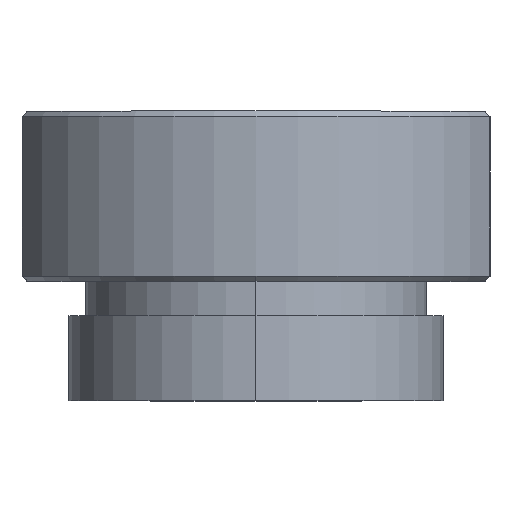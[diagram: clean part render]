
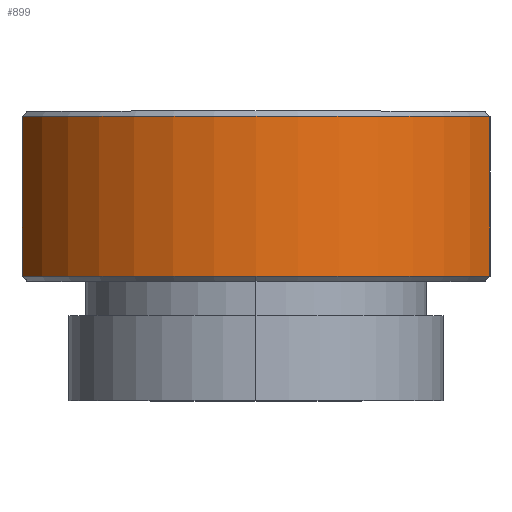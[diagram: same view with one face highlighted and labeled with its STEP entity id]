
A CAD part, top view. The second image highlights one B-rep face of the part: STEP entity #899.
In plain terms, the highlighted cylindrical face has radius 15 mm (diameter 30 mm), a partial arc.
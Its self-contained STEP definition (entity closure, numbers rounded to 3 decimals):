
#21 = CARTESIAN_POINT ( 'NONE',  ( -13.748, 10., 6. ) ) ;
#36 = CARTESIAN_POINT ( 'NONE',  ( 13.748, 0.3, 6. ) ) ;
#89 = CARTESIAN_POINT ( 'NONE',  ( 0., 10., 0. ) ) ;
#110 = ORIENTED_EDGE ( 'NONE', *, *, #1063, .T. ) ;
#125 = FACE_OUTER_BOUND ( 'NONE', #544, .T. ) ;
#151 = DIRECTION ( 'NONE',  ( 0., 1., 0. ) ) ;
#152 = CIRCLE ( 'NONE', #906, 15. ) ;
#170 = CARTESIAN_POINT ( 'NONE',  ( 13.748, 9.7, 6. ) ) ;
#235 = VERTEX_POINT ( 'NONE', #36 ) ;
#237 = CARTESIAN_POINT ( 'NONE',  ( 13.748, 10., 6. ) ) ;
#263 = VECTOR ( 'NONE', #1044, 1000. ) ;
#304 = VERTEX_POINT ( 'NONE', #932 ) ;
#327 = ORIENTED_EDGE ( 'NONE', *, *, #997, .T. ) ;
#336 = AXIS2_PLACEMENT_3D ( 'NONE', #1014, #663, #417 ) ;
#355 = CARTESIAN_POINT ( 'NONE',  ( 0., 0.3, 15. ) ) ;
#368 = DIRECTION ( 'NONE',  ( 0., 0., 1. ) ) ;
#370 = DIRECTION ( 'NONE',  ( 0., -1., 0. ) ) ;
#411 = CARTESIAN_POINT ( 'NONE',  ( -13.748, 9.7, 6. ) ) ;
#417 = DIRECTION ( 'NONE',  ( 0., 0., 1. ) ) ;
#427 = DIRECTION ( 'NONE',  ( 0., 0., 1. ) ) ;
#443 = ORIENTED_EDGE ( 'NONE', *, *, #629, .T. ) ;
#445 = DIRECTION ( 'NONE',  ( 0., 0., -1. ) ) ;
#468 = CYLINDRICAL_SURFACE ( 'NONE', #490, 15. ) ;
#490 = AXIS2_PLACEMENT_3D ( 'NONE', #89, #783, #445 ) ;
#544 = EDGE_LOOP ( 'NONE', ( #638, #110, #443, #327, #823 ) ) ;
#587 = VECTOR ( 'NONE', #865, 1000. ) ;
#603 = LINE ( 'NONE', #237, #587 ) ;
#629 = EDGE_CURVE ( 'NONE', #903, #235, #670, .T. ) ;
#638 = ORIENTED_EDGE ( 'NONE', *, *, #1105, .F. ) ;
#648 = VERTEX_POINT ( 'NONE', #411 ) ;
#663 = DIRECTION ( 'NONE',  ( 0., 1., 0. ) ) ;
#670 = CIRCLE ( 'NONE', #336, 15. ) ;
#719 = LINE ( 'NONE', #21, #263 ) ;
#783 = DIRECTION ( 'NONE',  ( 0., -1., 0. ) ) ;
#823 = ORIENTED_EDGE ( 'NONE', *, *, #832, .T. ) ;
#832 = EDGE_CURVE ( 'NONE', #913, #648, #152, .T. ) ;
#865 = DIRECTION ( 'NONE',  ( 0., 1., 0. ) ) ;
#867 = CARTESIAN_POINT ( 'NONE',  ( 0., 0.3, 0. ) ) ;
#880 = CIRCLE ( 'NONE', #940, 15. ) ;
#891 = CARTESIAN_POINT ( 'NONE',  ( 0., 9.7, 0. ) ) ;
#899 = ADVANCED_FACE ( 'NONE', ( #125 ), #468, .T. ) ;
#903 = VERTEX_POINT ( 'NONE', #355 ) ;
#906 = AXIS2_PLACEMENT_3D ( 'NONE', #891, #370, #368 ) ;
#913 = VERTEX_POINT ( 'NONE', #170 ) ;
#932 = CARTESIAN_POINT ( 'NONE',  ( -13.748, 0.3, 6. ) ) ;
#940 = AXIS2_PLACEMENT_3D ( 'NONE', #867, #151, #427 ) ;
#997 = EDGE_CURVE ( 'NONE', #235, #913, #603, .T. ) ;
#1014 = CARTESIAN_POINT ( 'NONE',  ( 0., 0.3, 0. ) ) ;
#1044 = DIRECTION ( 'NONE',  ( 0., 1., 0. ) ) ;
#1063 = EDGE_CURVE ( 'NONE', #304, #903, #880, .T. ) ;
#1105 = EDGE_CURVE ( 'NONE', #304, #648, #719, .T. ) ;
